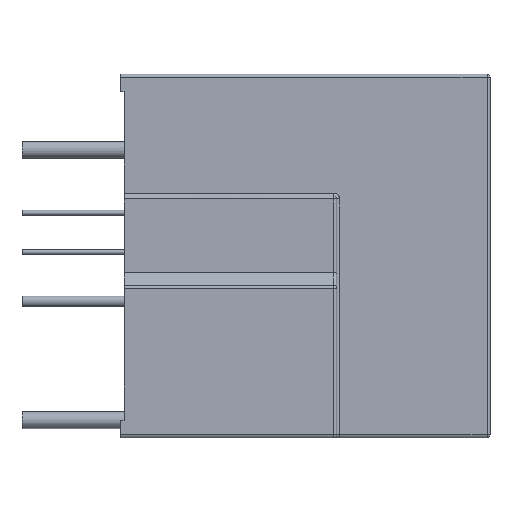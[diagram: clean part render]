
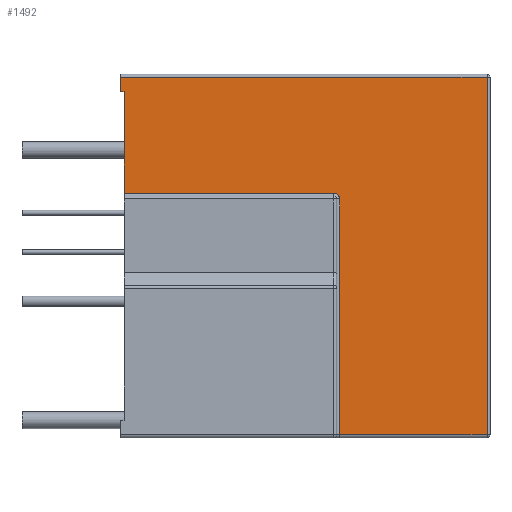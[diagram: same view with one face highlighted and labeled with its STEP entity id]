
A CAD part, left-side view. The second image highlights one B-rep face of the part: STEP entity #1492.
In plain terms, the highlighted planar face has unit normal (-1, 0, 0).
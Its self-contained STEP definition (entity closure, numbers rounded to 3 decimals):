
#140=DIRECTION('',(0.,0.,1.));
#141=VECTOR('',#140,1.5);
#142=CARTESIAN_POINT('',(-8.6,37.6,-1.8));
#143=LINE('',#142,#141);
#218=DIRECTION('',(0.,0.,1.));
#219=VECTOR('',#218,10.3);
#220=CARTESIAN_POINT('',(-8.6,37.2,-12.1));
#221=LINE('',#220,#219);
#418=DIRECTION('',(0.,1.,0.));
#419=VECTOR('',#418,21.3);
#420=CARTESIAN_POINT('',(-8.6,15.9,-12.1));
#421=LINE('',#420,#419);
#422=DIRECTION('',(0.,1.,0.));
#423=VECTOR('',#422,0.4);
#424=CARTESIAN_POINT('',(-8.6,37.2,-1.8));
#425=LINE('',#424,#423);
#426=DIRECTION('',(0.,1.,0.));
#427=VECTOR('',#426,37.3);
#428=CARTESIAN_POINT('',(-8.6,0.3,-0.3));
#429=LINE('',#428,#427);
#430=DIRECTION('',(0.,0.,1.));
#431=VECTOR('',#430,36.4);
#432=CARTESIAN_POINT('',(-8.6,0.3,-36.7));
#433=LINE('',#432,#431);
#434=DIRECTION('',(0.,1.,0.));
#435=VECTOR('',#434,15.);
#436=CARTESIAN_POINT('',(-8.6,0.3,-36.7));
#437=LINE('',#436,#435);
#438=DIRECTION('',(0.,0.,1.));
#439=VECTOR('',#438,24.);
#440=CARTESIAN_POINT('',(-8.6,15.3,-36.7));
#441=LINE('',#440,#439);
#442=CARTESIAN_POINT('',(-8.6,15.9,-12.7));
#443=DIRECTION('',(1.,0.,0.));
#444=DIRECTION('',(0.,0.,1.));
#445=AXIS2_PLACEMENT_3D('',#442,#443,#444);
#811=CARTESIAN_POINT('',(-8.6,37.6,-1.8));
#812=VERTEX_POINT('',#811);
#839=CARTESIAN_POINT('',(-8.6,37.2,-1.8));
#840=VERTEX_POINT('',#839);
#907=CARTESIAN_POINT('',(-8.6,15.9,-12.1));
#908=CARTESIAN_POINT('',(-8.6,37.2,-12.1));
#909=VERTEX_POINT('',#907);
#910=VERTEX_POINT('',#908);
#959=CARTESIAN_POINT('',(-8.6,37.6,-0.3));
#961=VERTEX_POINT('',#959);
#963=CARTESIAN_POINT('',(-8.6,0.3,-0.3));
#964=VERTEX_POINT('',#963);
#965=CARTESIAN_POINT('',(-8.6,0.3,-36.7));
#966=VERTEX_POINT('',#965);
#967=CARTESIAN_POINT('',(-8.6,15.3,-36.7));
#968=VERTEX_POINT('',#967);
#987=CARTESIAN_POINT('',(-8.6,15.3,-12.7));
#988=VERTEX_POINT('',#987);
#1469=CARTESIAN_POINT('',(-8.6,0.,-12.4));
#1470=DIRECTION('',(-1.,0.,0.));
#1471=DIRECTION('',(0.,0.,1.));
#1472=AXIS2_PLACEMENT_3D('',#1469,#1470,#1471);
#1473=PLANE('',#1472);
#1475=ORIENTED_EDGE('',*,*,#1474,.T.);
#1476=ORIENTED_EDGE('',*,*,#1192,.T.);
#1478=ORIENTED_EDGE('',*,*,#1477,.T.);
#1479=ORIENTED_EDGE('',*,*,#1158,.T.);
#1481=ORIENTED_EDGE('',*,*,#1480,.F.);
#1483=ORIENTED_EDGE('',*,*,#1482,.F.);
#1485=ORIENTED_EDGE('',*,*,#1484,.T.);
#1487=ORIENTED_EDGE('',*,*,#1486,.T.);
#1489=ORIENTED_EDGE('',*,*,#1488,.F.);
#1490=EDGE_LOOP('',(#1475,#1476,#1478,#1479,#1481,#1483,#1485,#1487,#1489));
#1491=FACE_OUTER_BOUND('',#1490,.F.);
#1492=ADVANCED_FACE('',(#1491),#1473,.T.);
#446=CIRCLE('',#445,0.6);
#1158=EDGE_CURVE('',#812,#961,#143,.T.);
#1192=EDGE_CURVE('',#910,#840,#221,.T.);
#1474=EDGE_CURVE('',#909,#910,#421,.T.);
#1477=EDGE_CURVE('',#840,#812,#425,.T.);
#1480=EDGE_CURVE('',#964,#961,#429,.T.);
#1482=EDGE_CURVE('',#966,#964,#433,.T.);
#1484=EDGE_CURVE('',#966,#968,#437,.T.);
#1486=EDGE_CURVE('',#968,#988,#441,.T.);
#1488=EDGE_CURVE('',#909,#988,#446,.T.);
